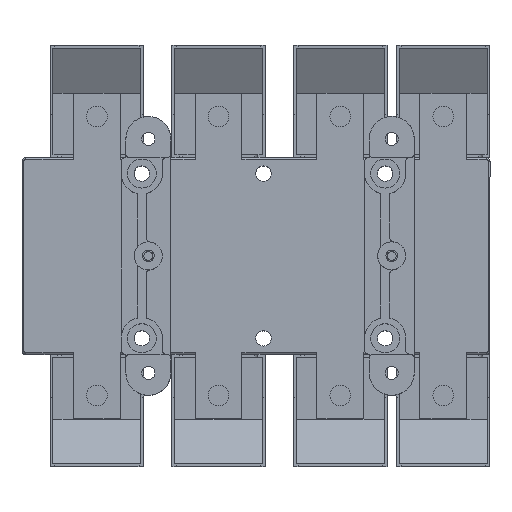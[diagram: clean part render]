
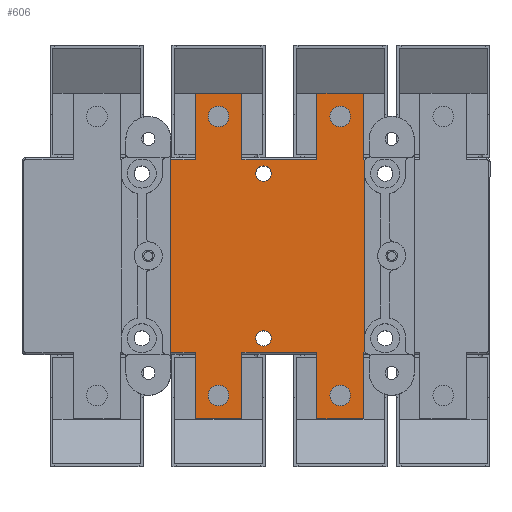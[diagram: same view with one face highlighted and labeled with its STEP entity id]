
A CAD part, top view. The second image highlights one B-rep face of the part: STEP entity #606.
In plain terms, the highlighted planar face has unit normal (0, 0, 1).
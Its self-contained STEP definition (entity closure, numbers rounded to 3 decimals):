
#606=ADVANCED_FACE('',(#3456,#3457,#3458,#3459,#3460,#3461,#3462),#1086,
 .F.);
#1086=PLANE('',#9357);
#1420=LINE('',#12758,#2437);
#1421=LINE('',#12761,#2438);
#1422=LINE('',#12763,#2439);
#1423=LINE('',#12765,#2440);
#1424=LINE('',#12767,#2441);
#1425=LINE('',#12769,#2442);
#1426=LINE('',#12771,#2443);
#1427=LINE('',#12773,#2444);
#1428=LINE('',#12775,#2445);
#1429=LINE('',#12777,#2446);
#1430=LINE('',#12781,#2447);
#1431=LINE('',#12785,#2448);
#1432=LINE('',#12787,#2449);
#1433=LINE('',#12789,#2450);
#1434=LINE('',#12791,#2451);
#1435=LINE('',#12793,#2452);
#1436=LINE('',#12795,#2453);
#1437=LINE('',#12797,#2454);
#1438=LINE('',#12799,#2455);
#1439=LINE('',#12801,#2456);
#2437=VECTOR('',#10161,1.);
#2438=VECTOR('',#10162,1.);
#2439=VECTOR('',#10163,1.);
#2440=VECTOR('',#10164,1.);
#2441=VECTOR('',#10165,1.);
#2442=VECTOR('',#10166,1.);
#2443=VECTOR('',#10167,1.);
#2444=VECTOR('',#10168,1.);
#2445=VECTOR('',#10169,1.);
#2446=VECTOR('',#10170,1.);
#2447=VECTOR('',#10173,1.);
#2448=VECTOR('',#10176,1.);
#2449=VECTOR('',#10177,1.);
#2450=VECTOR('',#10178,1.);
#2451=VECTOR('',#10179,1.);
#2452=VECTOR('',#10180,1.);
#2453=VECTOR('',#10181,1.);
#2454=VECTOR('',#10182,1.);
#2455=VECTOR('',#10183,1.);
#2456=VECTOR('',#10184,1.);
#3456=FACE_BOUND('',#3601,.T.);
#3457=FACE_BOUND('',#3602,.T.);
#3458=FACE_BOUND('',#3603,.T.);
#3459=FACE_BOUND('',#3604,.T.);
#3460=FACE_BOUND('',#3605,.T.);
#3461=FACE_BOUND('',#3606,.T.);
#3462=FACE_BOUND('',#3607,.T.);
#3601=EDGE_LOOP('',(#4172));
#3602=EDGE_LOOP('',(#4173,#4174,#4175,#4176,#4177,#4178,#4179,#4180,#4181,
#4182,#4183,#4184,#4185,#4186,#4187,#4188,#4189,#4190,#4191,#4192,#4193,
#4194));
#3603=EDGE_LOOP('',(#4195));
#3604=EDGE_LOOP('',(#4196));
#3605=EDGE_LOOP('',(#4197));
#3606=EDGE_LOOP('',(#4198));
#3607=EDGE_LOOP('',(#4199));
#4172=ORIENTED_EDGE('',*,*,#7714,.T.);
#4173=ORIENTED_EDGE('',*,*,#7715,.F.);
#4174=ORIENTED_EDGE('',*,*,#7716,.T.);
#4175=ORIENTED_EDGE('',*,*,#7717,.F.);
#4176=ORIENTED_EDGE('',*,*,#7718,.F.);
#4177=ORIENTED_EDGE('',*,*,#7719,.F.);
#4178=ORIENTED_EDGE('',*,*,#7720,.T.);
#4179=ORIENTED_EDGE('',*,*,#7721,.T.);
#4180=ORIENTED_EDGE('',*,*,#7722,.T.);
#4181=ORIENTED_EDGE('',*,*,#7723,.T.);
#4182=ORIENTED_EDGE('',*,*,#7724,.T.);
#4183=ORIENTED_EDGE('',*,*,#7725,.T.);
#4184=ORIENTED_EDGE('',*,*,#7726,.T.);
#4185=ORIENTED_EDGE('',*,*,#7727,.T.);
#4186=ORIENTED_EDGE('',*,*,#7728,.T.);
#4187=ORIENTED_EDGE('',*,*,#7729,.T.);
#4188=ORIENTED_EDGE('',*,*,#7730,.T.);
#4189=ORIENTED_EDGE('',*,*,#7731,.T.);
#4190=ORIENTED_EDGE('',*,*,#7732,.T.);
#4191=ORIENTED_EDGE('',*,*,#7733,.F.);
#4192=ORIENTED_EDGE('',*,*,#7734,.F.);
#4193=ORIENTED_EDGE('',*,*,#7735,.F.);
#4194=ORIENTED_EDGE('',*,*,#7736,.T.);
#4195=ORIENTED_EDGE('',*,*,#7737,.T.);
#4196=ORIENTED_EDGE('',*,*,#7738,.T.);
#4197=ORIENTED_EDGE('',*,*,#7739,.T.);
#4198=ORIENTED_EDGE('',*,*,#7740,.T.);
#4199=ORIENTED_EDGE('',*,*,#7741,.F.);
#6834=VERTEX_POINT('',#12757);
#6835=VERTEX_POINT('',#12759);
#6836=VERTEX_POINT('',#12760);
#6837=VERTEX_POINT('',#12762);
#6838=VERTEX_POINT('',#12764);
#6839=VERTEX_POINT('',#12766);
#6840=VERTEX_POINT('',#12768);
#6841=VERTEX_POINT('',#12770);
#6842=VERTEX_POINT('',#12772);
#6843=VERTEX_POINT('',#12774);
#6844=VERTEX_POINT('',#12776);
#6845=VERTEX_POINT('',#12778);
#6846=VERTEX_POINT('',#12780);
#6847=VERTEX_POINT('',#12782);
#6848=VERTEX_POINT('',#12784);
#6849=VERTEX_POINT('',#12786);
#6850=VERTEX_POINT('',#12788);
#6851=VERTEX_POINT('',#12790);
#6852=VERTEX_POINT('',#12792);
#6853=VERTEX_POINT('',#12794);
#6854=VERTEX_POINT('',#12796);
#6855=VERTEX_POINT('',#12798);
#6856=VERTEX_POINT('',#12800);
#6857=VERTEX_POINT('',#12803);
#6858=VERTEX_POINT('',#12805);
#6859=VERTEX_POINT('',#12807);
#6860=VERTEX_POINT('',#12809);
#6861=VERTEX_POINT('',#12811);
#7714=EDGE_CURVE('',#6834,#6834,#9039,.T.);
#7715=EDGE_CURVE('',#6835,#6836,#1420,.T.);
#7716=EDGE_CURVE('',#6835,#6837,#1421,.T.);
#7717=EDGE_CURVE('',#6838,#6837,#1422,.T.);
#7718=EDGE_CURVE('',#6839,#6838,#1423,.T.);
#7719=EDGE_CURVE('',#6840,#6839,#1424,.T.);
#7720=EDGE_CURVE('',#6840,#6841,#1425,.T.);
#7721=EDGE_CURVE('',#6841,#6842,#1426,.T.);
#7722=EDGE_CURVE('',#6842,#6843,#1427,.T.);
#7723=EDGE_CURVE('',#6843,#6844,#1428,.T.);
#7724=EDGE_CURVE('',#6844,#6845,#1429,.T.);
#7725=EDGE_CURVE('',#6845,#6846,#9040,.T.);
#7726=EDGE_CURVE('',#6846,#6847,#1430,.T.);
#7727=EDGE_CURVE('',#6847,#6848,#9041,.T.);
#7728=EDGE_CURVE('',#6848,#6849,#1431,.T.);
#7729=EDGE_CURVE('',#6849,#6850,#1432,.T.);
#7730=EDGE_CURVE('',#6850,#6851,#1433,.T.);
#7731=EDGE_CURVE('',#6851,#6852,#1434,.T.);
#7732=EDGE_CURVE('',#6852,#6853,#1435,.T.);
#7733=EDGE_CURVE('',#6854,#6853,#1436,.T.);
#7734=EDGE_CURVE('',#6855,#6854,#1437,.T.);
#7735=EDGE_CURVE('',#6856,#6855,#1438,.T.);
#7736=EDGE_CURVE('',#6856,#6836,#1439,.T.);
#7737=EDGE_CURVE('',#6857,#6857,#9042,.T.);
#7738=EDGE_CURVE('',#6858,#6858,#9043,.T.);
#7739=EDGE_CURVE('',#6859,#6859,#9044,.T.);
#7740=EDGE_CURVE('',#6860,#6860,#9045,.T.);
#7741=EDGE_CURVE('',#6861,#6861,#9046,.T.);
#9039=CIRCLE('',#9349,4.1);
#9040=CIRCLE('',#9350,2.);
#9041=CIRCLE('',#9351,2.);
#9042=CIRCLE('',#9352,5.5);
#9043=CIRCLE('',#9353,5.5);
#9044=CIRCLE('',#9354,5.5);
#9045=CIRCLE('',#9355,5.5);
#9046=CIRCLE('',#9356,4.1);
#9349=AXIS2_PLACEMENT_3D('',#12756,#10159,#10160);
#9350=AXIS2_PLACEMENT_3D('',#12779,#10171,#10172);
#9351=AXIS2_PLACEMENT_3D('',#12783,#10174,#10175);
#9352=AXIS2_PLACEMENT_3D('',#12802,#10185,#10186);
#9353=AXIS2_PLACEMENT_3D('',#12804,#10187,#10188);
#9354=AXIS2_PLACEMENT_3D('',#12806,#10189,#10190);
#9355=AXIS2_PLACEMENT_3D('',#12808,#10191,#10192);
#9356=AXIS2_PLACEMENT_3D('',#12810,#10193,#10194);
#9357=AXIS2_PLACEMENT_3D('',#12812,#10195,#10196);
#10159=DIRECTION('',(0.,0.,-1.));
#10160=DIRECTION('',(-1.,0.,0.));
#10161=DIRECTION('',(0.,1.,0.));
#10162=DIRECTION('',(1.,0.,0.));
#10163=DIRECTION('',(0.,1.,0.));
#10164=DIRECTION('',(-1.,0.,0.));
#10165=DIRECTION('',(0.,-1.,0.));
#10166=DIRECTION('',(1.,0.,0.));
#10167=DIRECTION('',(0.,-1.,0.));
#10168=DIRECTION('',(1.,0.,0.));
#10169=DIRECTION('',(0.,1.,0.));
#10170=DIRECTION('',(1.,0.,0.));
#10171=DIRECTION('',(0.,0.,-1.));
#10172=DIRECTION('',(-1.,0.,0.));
#10173=DIRECTION('',(0.,1.,0.));
#10174=DIRECTION('',(0.,0.,-1.));
#10175=DIRECTION('',(-1.,0.,0.));
#10176=DIRECTION('',(-1.,0.,0.));
#10177=DIRECTION('',(0.,1.,0.));
#10178=DIRECTION('',(-1.,0.,0.));
#10179=DIRECTION('',(0.,-1.,0.));
#10180=DIRECTION('',(-1.,0.,0.));
#10181=DIRECTION('',(0.,-1.,0.));
#10182=DIRECTION('',(1.,0.,0.));
#10183=DIRECTION('',(0.,1.,0.));
#10184=DIRECTION('',(-1.,0.,0.));
#10185=DIRECTION('',(0.,0.,-1.));
#10186=DIRECTION('',(-1.,0.,0.));
#10187=DIRECTION('',(0.,0.,-1.));
#10188=DIRECTION('',(-1.,0.,0.));
#10189=DIRECTION('',(0.,0.,-1.));
#10190=DIRECTION('',(-1.,0.,0.));
#10191=DIRECTION('',(0.,0.,-1.));
#10192=DIRECTION('',(-1.,0.,0.));
#10193=DIRECTION('',(0.,0.,1.));
#10194=DIRECTION('',(-1.,0.,0.));
#10195=DIRECTION('',(0.,0.,-1.));
#10196=DIRECTION('',(-1.,0.,0.));
#12756=CARTESIAN_POINT('',(-68.5,44.,0.));
#12757=CARTESIAN_POINT('',(-72.6,44.,0.));
#12758=CARTESIAN_POINT('',(-118.,62.5,0.));
#12759=CARTESIAN_POINT('',(-118.,-51.5,0.));
#12760=CARTESIAN_POINT('',(-118.,51.5,0.));
#12761=CARTESIAN_POINT('',(-12.5,-51.5,0.));
#12762=CARTESIAN_POINT('',(-105.,-51.5,0.));
#12763=CARTESIAN_POINT('',(-105.,-87.,0.));
#12764=CARTESIAN_POINT('',(-105.,-87.,0.));
#12765=CARTESIAN_POINT('',(-80.,-87.,0.));
#12766=CARTESIAN_POINT('',(-80.,-87.,0.));
#12767=CARTESIAN_POINT('',(-80.,87.,0.));
#12768=CARTESIAN_POINT('',(-80.,-51.5,0.));
#12769=CARTESIAN_POINT('',(-12.5,-51.5,0.));
#12770=CARTESIAN_POINT('',(-40.,-51.5,0.));
#12771=CARTESIAN_POINT('',(-40.,87.,0.));
#12772=CARTESIAN_POINT('',(-40.,-87.,0.));
#12773=CARTESIAN_POINT('',(-40.,-87.,0.));
#12774=CARTESIAN_POINT('',(-15.,-87.,0.));
#12775=CARTESIAN_POINT('',(-15.,-87.,0.));
#12776=CARTESIAN_POINT('',(-15.,-51.5,0.));
#12777=CARTESIAN_POINT('',(-12.5,-51.5,0.));
#12778=CARTESIAN_POINT('',(-14.232,-51.5,0.));
#12779=CARTESIAN_POINT('',(-12.5,-50.5,0.));
#12780=CARTESIAN_POINT('',(-14.5,-50.5,0.));
#12781=CARTESIAN_POINT('',(-14.5,62.5,0.));
#12782=CARTESIAN_POINT('',(-14.5,50.5,0.));
#12783=CARTESIAN_POINT('',(-12.5,50.5,0.));
#12784=CARTESIAN_POINT('',(-14.232,51.5,0.));
#12785=CARTESIAN_POINT('',(-195.5,51.5,0.));
#12786=CARTESIAN_POINT('',(-15.,51.5,0.));
#12787=CARTESIAN_POINT('',(-15.,-87.,0.));
#12788=CARTESIAN_POINT('',(-15.,87.,0.));
#12789=CARTESIAN_POINT('',(-15.,87.,0.));
#12790=CARTESIAN_POINT('',(-40.,87.,0.));
#12791=CARTESIAN_POINT('',(-40.,87.,0.));
#12792=CARTESIAN_POINT('',(-40.,51.5,0.));
#12793=CARTESIAN_POINT('',(-195.5,51.5,0.));
#12794=CARTESIAN_POINT('',(-80.,51.5,0.));
#12795=CARTESIAN_POINT('',(-80.,87.,0.));
#12796=CARTESIAN_POINT('',(-80.,87.,0.));
#12797=CARTESIAN_POINT('',(-105.,87.,0.));
#12798=CARTESIAN_POINT('',(-105.,87.,0.));
#12799=CARTESIAN_POINT('',(-105.,-87.,0.));
#12800=CARTESIAN_POINT('',(-105.,51.5,0.));
#12801=CARTESIAN_POINT('',(-195.5,51.5,0.));
#12802=CARTESIAN_POINT('',(-27.5,-74.5,0.));
#12803=CARTESIAN_POINT('',(-33.,-74.5,0.));
#12804=CARTESIAN_POINT('',(-92.5,-74.5,0.));
#12805=CARTESIAN_POINT('',(-98.,-74.5,0.));
#12806=CARTESIAN_POINT('',(-92.5,74.5,0.));
#12807=CARTESIAN_POINT('',(-98.,74.5,0.));
#12808=CARTESIAN_POINT('',(-27.5,74.5,0.));
#12809=CARTESIAN_POINT('',(-33.,74.5,0.));
#12810=CARTESIAN_POINT('',(-68.5,-44.,0.));
#12811=CARTESIAN_POINT('',(-72.6,-44.,0.));
#12812=CARTESIAN_POINT('',(50.5,-50.5,0.));
